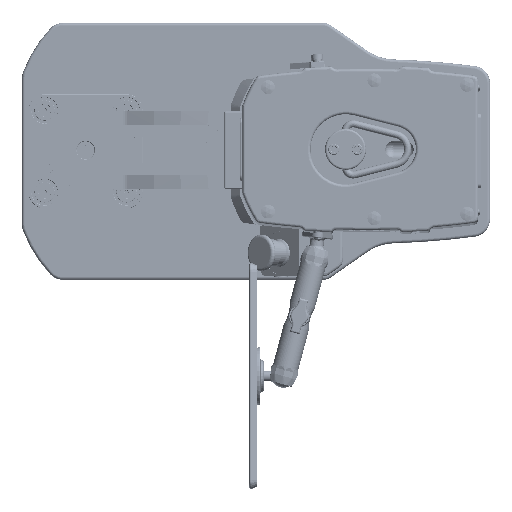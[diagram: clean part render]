
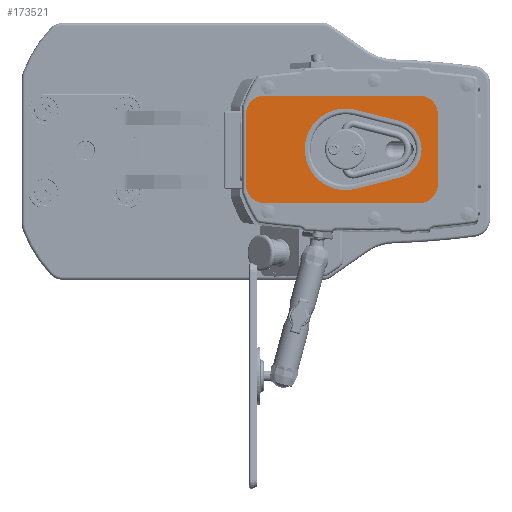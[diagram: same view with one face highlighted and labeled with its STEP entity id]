
A CAD part, top view. The second image highlights one B-rep face of the part: STEP entity #173521.
In plain terms, the highlighted planar face has unit normal (0, 0, 1).
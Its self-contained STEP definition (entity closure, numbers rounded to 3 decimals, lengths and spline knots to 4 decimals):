
#3931=FACE_BOUND('',#25309,.T.);
#12835=FACE_OUTER_BOUND('',#25308,.T.);
#25308=EDGE_LOOP('',(#138907,#138908,#138909,#138910,#138911,#138912,#138913,
#138914));
#25309=EDGE_LOOP('',(#138915,#138916,#138917,#138918));
#30553=CIRCLE('',#245100,1.744);
#30554=CIRCLE('',#245103,1.25);
#30555=CIRCLE('',#245107,0.8);
#30556=CIRCLE('',#245110,0.8);
#30557=CIRCLE('',#245113,0.8);
#30558=CIRCLE('',#245116,0.8);
#49594=VERTEX_POINT('',#374353);
#49595=VERTEX_POINT('',#374355);
#49596=VERTEX_POINT('',#374359);
#49597=VERTEX_POINT('',#374363);
#49598=VERTEX_POINT('',#374369);
#49599=VERTEX_POINT('',#374371);
#49600=VERTEX_POINT('',#374375);
#49601=VERTEX_POINT('',#374379);
#49602=VERTEX_POINT('',#374383);
#49603=VERTEX_POINT('',#374387);
#49604=VERTEX_POINT('',#374391);
#49605=VERTEX_POINT('',#374395);
#80442=EDGE_CURVE('',#49595,#49594,#30553,.T.);
#80445=EDGE_CURVE('',#49594,#49596,#198818,.T.);
#80447=EDGE_CURVE('',#49596,#49597,#30554,.T.);
#80448=EDGE_CURVE('',#49597,#49595,#198820,.T.);
#80450=EDGE_CURVE('',#49599,#49598,#198822,.T.);
#80452=EDGE_CURVE('',#49600,#49599,#30555,.T.);
#80454=EDGE_CURVE('',#49601,#49600,#198825,.T.);
#80456=EDGE_CURVE('',#49602,#49601,#30556,.T.);
#80458=EDGE_CURVE('',#49603,#49602,#198828,.T.);
#80460=EDGE_CURVE('',#49604,#49603,#30557,.T.);
#80462=EDGE_CURVE('',#49605,#49604,#198831,.T.);
#80464=EDGE_CURVE('',#49598,#49605,#30558,.T.);
#138907=ORIENTED_EDGE('',*,*,#80464,.T.);
#138908=ORIENTED_EDGE('',*,*,#80462,.T.);
#138909=ORIENTED_EDGE('',*,*,#80460,.T.);
#138910=ORIENTED_EDGE('',*,*,#80458,.T.);
#138911=ORIENTED_EDGE('',*,*,#80456,.T.);
#138912=ORIENTED_EDGE('',*,*,#80454,.T.);
#138913=ORIENTED_EDGE('',*,*,#80452,.T.);
#138914=ORIENTED_EDGE('',*,*,#80450,.T.);
#138915=ORIENTED_EDGE('',*,*,#80442,.T.);
#138916=ORIENTED_EDGE('',*,*,#80445,.T.);
#138917=ORIENTED_EDGE('',*,*,#80447,.T.);
#138918=ORIENTED_EDGE('',*,*,#80448,.T.);
#162692=PLANE('',#245117);
#173521=ADVANCED_FACE('',(#12835,#3931),#162692,.T.);
#198818=LINE('',#374361,#227629);
#198820=LINE('',#374367,#227631);
#198822=LINE('',#374372,#227633);
#198825=LINE('',#374380,#227636);
#198828=LINE('',#374388,#227639);
#198831=LINE('',#374396,#227642);
#227629=VECTOR('',#294092,1.);
#227631=VECTOR('',#294100,1.);
#227633=VECTOR('',#294104,1.);
#227636=VECTOR('',#294113,1.);
#227639=VECTOR('',#294122,1.);
#227642=VECTOR('',#294131,1.);
#245100=AXIS2_PLACEMENT_3D('',#374356,#294086,#294087);
#245103=AXIS2_PLACEMENT_3D('',#374365,#294096,#294097);
#245107=AXIS2_PLACEMENT_3D('',#374376,#294108,#294109);
#245110=AXIS2_PLACEMENT_3D('',#374384,#294117,#294118);
#245113=AXIS2_PLACEMENT_3D('',#374392,#294126,#294127);
#245116=AXIS2_PLACEMENT_3D('',#374399,#294135,#294136);
#245117=AXIS2_PLACEMENT_3D('',#374400,#294137,#294138);
#294086=DIRECTION('center_axis',(0.,0.,
-1.));
#294087=DIRECTION('ref_axis',(0.247,0.969,0.));
#294092=DIRECTION('',(0.969,-0.247,0.));
#294096=DIRECTION('center_axis',(0.,0.,
-1.));
#294097=DIRECTION('ref_axis',(0.247,-0.969,0.));
#294100=DIRECTION('',(-0.969,-0.247,0.));
#294104=DIRECTION('',(1.,0.,0.));
#294108=DIRECTION('center_axis',(0.,0.,
1.));
#294109=DIRECTION('ref_axis',(-1.,0.,0.));
#294113=DIRECTION('',(0.,-1.,0.));
#294117=DIRECTION('center_axis',(0.,0.,
1.));
#294118=DIRECTION('ref_axis',(0.,1.,0.));
#294122=DIRECTION('',(-1.,0.,0.));
#294126=DIRECTION('center_axis',(0.,0.,
1.));
#294127=DIRECTION('ref_axis',(1.,0.,0.));
#294131=DIRECTION('',(0.,1.,0.));
#294135=DIRECTION('center_axis',(0.,0.,
1.));
#294136=DIRECTION('ref_axis',(0.,-1.,0.));
#294137=DIRECTION('center_axis',(0.,0.,
1.));
#294138=DIRECTION('ref_axis',(0.,1.,0.));
#374353=CARTESIAN_POINT('',(19.2666,37.9356,57.7197));
#374355=CARTESIAN_POINT('',(19.2666,34.5557,57.7197));
#374356=CARTESIAN_POINT('Origin',(18.8359,36.2456,57.7197));
#374359=CARTESIAN_POINT('',(21.1446,37.4569,57.7197));
#374361=CARTESIAN_POINT('',(20.1333,37.7147,57.7197));
#374363=CARTESIAN_POINT('',(21.1446,35.0344,57.7197));
#374365=CARTESIAN_POINT('Origin',(20.8359,36.2456,57.7197));
#374367=CARTESIAN_POINT('',(19.1943,34.5372,57.7197));
#374369=CARTESIAN_POINT('',(21.9818,33.9456,57.7197));
#374371=CARTESIAN_POINT('',(15.3818,33.9456,57.7197));
#374372=CARTESIAN_POINT('',(15.3818,33.9456,57.7197));
#374375=CARTESIAN_POINT('',(14.5818,34.7456,57.7197));
#374376=CARTESIAN_POINT('Origin',(15.3818,34.7456,57.7197));
#374379=CARTESIAN_POINT('',(14.5818,37.7456,57.7197));
#374380=CARTESIAN_POINT('',(14.5818,37.7456,57.7197));
#374383=CARTESIAN_POINT('',(15.3818,38.5456,57.7197));
#374384=CARTESIAN_POINT('Origin',(15.3818,37.7456,57.7197));
#374387=CARTESIAN_POINT('',(21.9818,38.5456,57.7197));
#374388=CARTESIAN_POINT('',(21.9818,38.5456,57.7197));
#374391=CARTESIAN_POINT('',(22.7818,37.7456,57.7197));
#374392=CARTESIAN_POINT('Origin',(21.9818,37.7456,57.7197));
#374395=CARTESIAN_POINT('',(22.7818,34.7456,57.7197));
#374396=CARTESIAN_POINT('',(22.7818,34.7456,57.7197));
#374399=CARTESIAN_POINT('Origin',(21.9818,34.7456,57.7197));
#374400=CARTESIAN_POINT('Origin',(18.6818,36.2456,57.7197));
